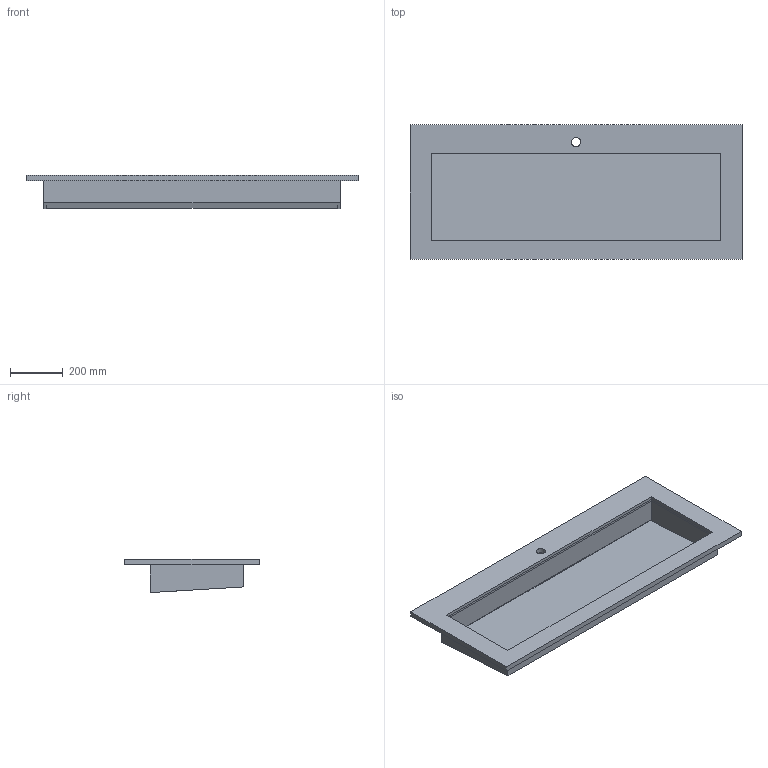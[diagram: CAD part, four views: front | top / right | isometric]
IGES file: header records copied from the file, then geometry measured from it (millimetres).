
Start section: Data from Parasolid IGES Translator 19.0.9, Copyright(c) 2006 Siemens PL M Software. All Rights Reserved.
Global section: file name: noorth-top-H 2 D 51,3 W 126_4649.igs; native system: By Siemens PLM Incorporated; preprocessor: XPlus GENERIC/IGES 19.0.9; author: Noname; organization: Noname; date: 20200603.113457; units: metre
Bounding box: 1260 x 512 x 125.71 mm (x, y, z)
Volume: 13874273.9 mm3; surface area: 2038499.4 mm2
Topology: 2 solids, 2 shells, 30 faces, 81 edges, 54 vertices
Faces by surface type: plane 29, cylinder 1
Full cylindrical faces by diameter (mm): 34.9 x1
